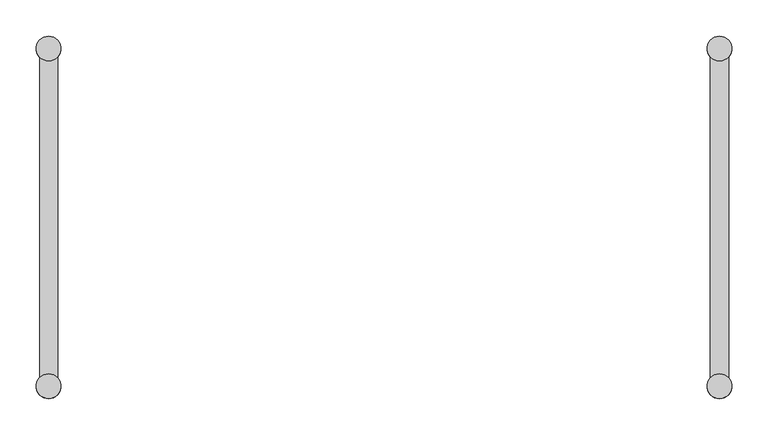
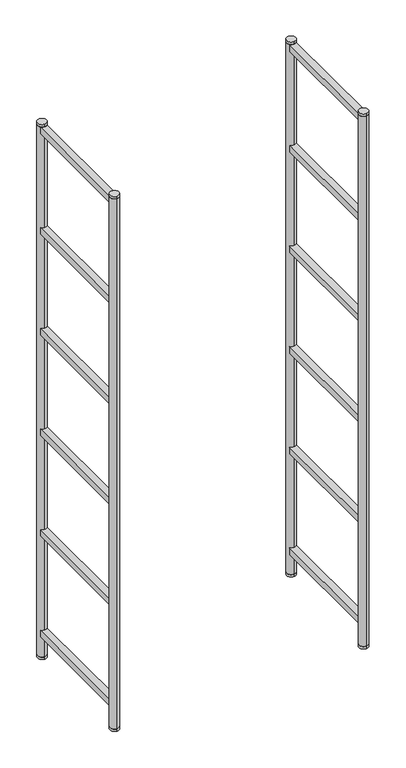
"""IFC4 building model written with IfcOpenShell, lengths in millimetres: furniture geometry, MAKR_TEMPLATE_900mmL : MAKR_TEMPLATE_900mmL."""

from ifc_helpers import new_model, si_unit, point, frame, frame_2d, origin, origin_with_axes, place, context, project, spatial, polyline, circle_curve, trimmed, segment, composite_curve, outline, extrude, source, transform, mapped, element, save


def furniture_b4e3dd61(model_context):
    return source(origin(), model_context, "Body", "SweptSolid", [
        extrude(outline(composite_curve([segment(polyline([(475.0, 221.4782814), (475.0, -221.4782814)]), True, "CONTINUOUS"), segment(trimmed(circle_curve(frame_2d((462.5, -233.0)), 17.0), [point((475.0, -221.4782814))], [point((450.0, -221.4782814))], True, "CARTESIAN"), True, "CONTINUOUS"), segment(polyline([(450.0, -221.4782814), (450.0, 221.4782814)]), True, "CONTINUOUS"), segment(trimmed(circle_curve(frame_2d((462.5, 233.0)), 17.0), [point((450.0, 221.4782814))], [point((475.0, 221.4782814))], True, "CARTESIAN"), True, "CONTINUOUS")], self_intersect=False)), frame((0.0, 0.0, 2064.0), z_axis=(0.0, 0.0, 1.0), x_axis=(1.0, 0.0, 0.0)), (0.0, 0.0, 1.0), 25.0),
        extrude(outline(composite_curve([segment(polyline([(475.0, 221.4782814), (475.0, -221.4782814)]), True, "CONTINUOUS"), segment(trimmed(circle_curve(frame_2d((462.5, -233.0)), 17.0), [point((475.0, -221.4782814))], [point((450.0, -221.4782814))], True, "CARTESIAN"), True, "CONTINUOUS"), segment(polyline([(450.0, -221.4782814), (450.0, 221.4782814)]), True, "CONTINUOUS"), segment(trimmed(circle_curve(frame_2d((462.5, 233.0)), 17.0), [point((450.0, 221.4782814))], [point((475.0, 221.4782814))], True, "CARTESIAN"), True, "CONTINUOUS")], self_intersect=False)), frame((0.0, 0.0, 1669.0), z_axis=(0.0, 0.0, 1.0), x_axis=(1.0, 0.0, 0.0)), (0.0, 0.0, 1.0), 25.0),
        extrude(outline(composite_curve([segment(polyline([(475.0, 221.4782814), (475.0, -221.4782814)]), True, "CONTINUOUS"), segment(trimmed(circle_curve(frame_2d((462.5, -233.0)), 17.0), [point((475.0, -221.4782814))], [point((450.0, -221.4782814))], True, "CARTESIAN"), True, "CONTINUOUS"), segment(polyline([(450.0, -221.4782814), (450.0, 221.4782814)]), True, "CONTINUOUS"), segment(trimmed(circle_curve(frame_2d((462.5, 233.0)), 17.0), [point((450.0, 221.4782814))], [point((475.0, 221.4782814))], True, "CARTESIAN"), True, "CONTINUOUS")], self_intersect=False)), frame((0.0, 0.0, 1274.0), z_axis=(0.0, 0.0, 1.0), x_axis=(1.0, 0.0, 0.0)), (0.0, 0.0, 1.0), 25.0),
        extrude(outline(composite_curve([segment(polyline([(475.0, 221.4782814), (475.0, -221.4782814)]), True, "CONTINUOUS"), segment(trimmed(circle_curve(frame_2d((462.5, -233.0)), 17.0), [point((475.0, -221.4782814))], [point((450.0, -221.4782814))], True, "CARTESIAN"), True, "CONTINUOUS"), segment(polyline([(450.0, -221.4782814), (450.0, 221.4782814)]), True, "CONTINUOUS"), segment(trimmed(circle_curve(frame_2d((462.5, 233.0)), 17.0), [point((450.0, 221.4782814))], [point((475.0, 221.4782814))], True, "CARTESIAN"), True, "CONTINUOUS")], self_intersect=False)), frame((0.0, 0.0, 879.0), z_axis=(0.0, 0.0, 1.0), x_axis=(1.0, 0.0, 0.0)), (0.0, 0.0, 1.0), 25.0),
        extrude(outline(composite_curve([segment(polyline([(475.0, 221.4782814), (475.0, -221.4782814)]), True, "CONTINUOUS"), segment(trimmed(circle_curve(frame_2d((462.5, -233.0)), 17.0), [point((475.0, -221.4782814))], [point((450.0, -221.4782814))], True, "CARTESIAN"), True, "CONTINUOUS"), segment(polyline([(450.0, -221.4782814), (450.0, 221.4782814)]), True, "CONTINUOUS"), segment(trimmed(circle_curve(frame_2d((462.5, 233.0)), 17.0), [point((450.0, 221.4782814))], [point((475.0, 221.4782814))], True, "CARTESIAN"), True, "CONTINUOUS")], self_intersect=False)), frame((0.0, 0.0, 484.0), z_axis=(0.0, 0.0, 1.0), x_axis=(1.0, 0.0, 0.0)), (0.0, 0.0, 1.0), 25.0),
        extrude(outline(composite_curve([segment(polyline([(475.0, 221.4782814), (475.0, -221.4782814)]), True, "CONTINUOUS"), segment(trimmed(circle_curve(frame_2d((462.5, -233.0)), 17.0), [point((475.0, -221.4782814))], [point((450.0, -221.4782814))], True, "CARTESIAN"), True, "CONTINUOUS"), segment(polyline([(450.0, -221.4782814), (450.0, 221.4782814)]), True, "CONTINUOUS"), segment(trimmed(circle_curve(frame_2d((462.5, 233.0)), 17.0), [point((450.0, 221.4782814))], [point((475.0, 221.4782814))], True, "CARTESIAN"), True, "CONTINUOUS")], self_intersect=False)), frame((0.0, 0.0, 89.0), z_axis=(0.0, 0.0, 1.0), x_axis=(1.0, 0.0, 0.0)), (0.0, 0.0, 1.0), 25.0),
        extrude(outline(composite_curve([segment(trimmed(circle_curve(frame_2d((462.5, -233.0)), 17.0), [point((462.5, -216.0))], [point((462.5, -250.0))], False, "CARTESIAN"), True, "CONTINUOUS"), segment(trimmed(circle_curve(frame_2d((462.5, -233.0)), 17.0), [point((462.5, -250.0))], [point((462.5, -216.0))], False, "CARTESIAN"), True, "CONTINUOUS")], self_intersect=False)), frame((0.0, 0.0, 2091.0), z_axis=(0.0, 0.0, 1.0), x_axis=(1.0, 0.0, 0.0)), (0.0, 0.0, 1.0), 9.0),
        extrude(outline(composite_curve([segment(trimmed(circle_curve(frame_2d((462.5, -233.0)), 17.0), [point((462.5, -216.0))], [point((462.5, -250.0))], False, "CARTESIAN"), True, "CONTINUOUS"), segment(trimmed(circle_curve(frame_2d((462.5, -233.0)), 17.0), [point((462.5, -250.0))], [point((462.5, -216.0))], False, "CARTESIAN"), True, "CONTINUOUS")], self_intersect=False)), origin_with_axes(), (0.0, 0.0, 1.0), 9.0),
        extrude(outline(composite_curve([segment(trimmed(circle_curve(frame_2d((462.5, -233.0)), 17.0), [point((462.5, -216.0))], [point((462.5, -250.0))], False, "CARTESIAN"), True, "CONTINUOUS"), segment(trimmed(circle_curve(frame_2d((462.5, -233.0)), 17.0), [point((462.5, -250.0))], [point((462.5, -216.0))], False, "CARTESIAN"), True, "CONTINUOUS")], self_intersect=False)), frame((0.0, 0.0, 9.0), z_axis=(0.0, 0.0, 1.0), x_axis=(1.0, 0.0, 0.0)), (0.0, 0.0, 1.0), 2082.0),
        extrude(outline(composite_curve([segment(trimmed(circle_curve(frame_2d((462.5, 233.0)), 17.0), [point((462.5, 216.0))], [point((462.5, 250.0))], False, "CARTESIAN"), True, "CONTINUOUS"), segment(trimmed(circle_curve(frame_2d((462.5, 233.0)), 17.0), [point((462.5, 250.0))], [point((462.5, 216.0))], False, "CARTESIAN"), True, "CONTINUOUS")], self_intersect=False)), frame((0.0, 0.0, 2091.0), z_axis=(0.0, 0.0, 1.0), x_axis=(1.0, 0.0, 0.0)), (0.0, 0.0, 1.0), 9.0),
        extrude(outline(composite_curve([segment(trimmed(circle_curve(frame_2d((462.5, 233.0)), 17.0), [point((462.5, 216.0))], [point((462.5, 250.0))], False, "CARTESIAN"), True, "CONTINUOUS"), segment(trimmed(circle_curve(frame_2d((462.5, 233.0)), 17.0), [point((462.5, 250.0))], [point((462.5, 216.0))], False, "CARTESIAN"), True, "CONTINUOUS")], self_intersect=False)), origin_with_axes(), (0.0, 0.0, 1.0), 9.0),
        extrude(outline(composite_curve([segment(trimmed(circle_curve(frame_2d((462.5, 233.0)), 17.0), [point((462.5, 216.0))], [point((462.5, 250.0))], False, "CARTESIAN"), True, "CONTINUOUS"), segment(trimmed(circle_curve(frame_2d((462.5, 233.0)), 17.0), [point((462.5, 250.0))], [point((462.5, 216.0))], False, "CARTESIAN"), True, "CONTINUOUS")], self_intersect=False)), frame((0.0, 0.0, 9.0), z_axis=(0.0, 0.0, 1.0), x_axis=(1.0, 0.0, 0.0)), (0.0, 0.0, 1.0), 2082.0),
        extrude(outline(composite_curve([segment(trimmed(circle_curve(frame_2d((-462.5, 233.0)), 17.0), [point((-475.0, 221.4782814))], [point((-450.0, 221.4782814))], True, "CARTESIAN"), True, "CONTINUOUS"), segment(polyline([(-450.0, 221.4782814), (-450.0, -221.4782814)]), True, "CONTINUOUS"), segment(trimmed(circle_curve(frame_2d((-462.5, -233.0)), 17.0), [point((-450.0, -221.4782814))], [point((-475.0, -221.4782814))], True, "CARTESIAN"), True, "CONTINUOUS"), segment(polyline([(-475.0, -221.4782814), (-475.0, 221.4782814)]), True, "CONTINUOUS")], self_intersect=False)), frame((0.0, 0.0, 2064.0), z_axis=(0.0, 0.0, 1.0), x_axis=(1.0, 0.0, 0.0)), (0.0, 0.0, 1.0), 25.0),
        extrude(outline(composite_curve([segment(trimmed(circle_curve(frame_2d((-462.5, 233.0)), 17.0), [point((-475.0, 221.4782814))], [point((-450.0, 221.4782814))], True, "CARTESIAN"), True, "CONTINUOUS"), segment(polyline([(-450.0, 221.4782814), (-450.0, -221.4782814)]), True, "CONTINUOUS"), segment(trimmed(circle_curve(frame_2d((-462.5, -233.0)), 17.0), [point((-450.0, -221.4782814))], [point((-475.0, -221.4782814))], True, "CARTESIAN"), True, "CONTINUOUS"), segment(polyline([(-475.0, -221.4782814), (-475.0, 221.4782814)]), True, "CONTINUOUS")], self_intersect=False)), frame((0.0, 0.0, 1669.0), z_axis=(0.0, 0.0, 1.0), x_axis=(1.0, 0.0, 0.0)), (0.0, 0.0, 1.0), 25.0),
        extrude(outline(composite_curve([segment(trimmed(circle_curve(frame_2d((-462.5, 233.0)), 17.0), [point((-475.0, 221.4782814))], [point((-450.0, 221.4782814))], True, "CARTESIAN"), True, "CONTINUOUS"), segment(polyline([(-450.0, 221.4782814), (-450.0, -221.4782814)]), True, "CONTINUOUS"), segment(trimmed(circle_curve(frame_2d((-462.5, -233.0)), 17.0), [point((-450.0, -221.4782814))], [point((-475.0, -221.4782814))], True, "CARTESIAN"), True, "CONTINUOUS"), segment(polyline([(-475.0, -221.4782814), (-475.0, 221.4782814)]), True, "CONTINUOUS")], self_intersect=False)), frame((0.0, 0.0, 1274.0), z_axis=(0.0, 0.0, 1.0), x_axis=(1.0, 0.0, 0.0)), (0.0, 0.0, 1.0), 25.0),
        extrude(outline(composite_curve([segment(trimmed(circle_curve(frame_2d((-462.5, 233.0)), 17.0), [point((-475.0, 221.4782814))], [point((-450.0, 221.4782814))], True, "CARTESIAN"), True, "CONTINUOUS"), segment(polyline([(-450.0, 221.4782814), (-450.0, -221.4782814)]), True, "CONTINUOUS"), segment(trimmed(circle_curve(frame_2d((-462.5, -233.0)), 17.0), [point((-450.0, -221.4782814))], [point((-475.0, -221.4782814))], True, "CARTESIAN"), True, "CONTINUOUS"), segment(polyline([(-475.0, -221.4782814), (-475.0, 221.4782814)]), True, "CONTINUOUS")], self_intersect=False)), frame((0.0, 0.0, 879.0), z_axis=(0.0, 0.0, 1.0), x_axis=(1.0, 0.0, 0.0)), (0.0, 0.0, 1.0), 25.0),
        extrude(outline(composite_curve([segment(trimmed(circle_curve(frame_2d((-462.5, 233.0)), 17.0), [point((-475.0, 221.4782814))], [point((-450.0, 221.4782814))], True, "CARTESIAN"), True, "CONTINUOUS"), segment(polyline([(-450.0, 221.4782814), (-450.0, -221.4782814)]), True, "CONTINUOUS"), segment(trimmed(circle_curve(frame_2d((-462.5, -233.0)), 17.0), [point((-450.0, -221.4782814))], [point((-475.0, -221.4782814))], True, "CARTESIAN"), True, "CONTINUOUS"), segment(polyline([(-475.0, -221.4782814), (-475.0, 221.4782814)]), True, "CONTINUOUS")], self_intersect=False)), frame((0.0, 0.0, 484.0), z_axis=(0.0, 0.0, 1.0), x_axis=(1.0, 0.0, 0.0)), (0.0, 0.0, 1.0), 25.0),
        extrude(outline(composite_curve([segment(trimmed(circle_curve(frame_2d((-462.5, 233.0)), 17.0), [point((-475.0, 221.4782814))], [point((-450.0, 221.4782814))], True, "CARTESIAN"), True, "CONTINUOUS"), segment(polyline([(-450.0, 221.4782814), (-450.0, -221.4782814)]), True, "CONTINUOUS"), segment(trimmed(circle_curve(frame_2d((-462.5, -233.0)), 17.0), [point((-450.0, -221.4782814))], [point((-475.0, -221.4782814))], True, "CARTESIAN"), True, "CONTINUOUS"), segment(polyline([(-475.0, -221.4782814), (-475.0, 221.4782814)]), True, "CONTINUOUS")], self_intersect=False)), frame((0.0, 0.0, 89.0), z_axis=(0.0, 0.0, 1.0), x_axis=(1.0, 0.0, 0.0)), (0.0, 0.0, 1.0), 25.0),
        extrude(outline(composite_curve([segment(trimmed(circle_curve(frame_2d((-462.5, -233.0)), 17.0), [point((-462.5, -216.0))], [point((-462.5, -250.0))], False, "CARTESIAN"), True, "CONTINUOUS"), segment(trimmed(circle_curve(frame_2d((-462.5, -233.0)), 17.0), [point((-462.5, -250.0))], [point((-462.5, -216.0))], False, "CARTESIAN"), True, "CONTINUOUS")], self_intersect=False)), frame((0.0, 0.0, 2091.0), z_axis=(0.0, 0.0, 1.0), x_axis=(1.0, 0.0, 0.0)), (0.0, 0.0, 1.0), 9.0),
        extrude(outline(composite_curve([segment(trimmed(circle_curve(frame_2d((-462.5, -233.0)), 17.0), [point((-462.5, -216.0))], [point((-462.5, -250.0))], False, "CARTESIAN"), True, "CONTINUOUS"), segment(trimmed(circle_curve(frame_2d((-462.5, -233.0)), 17.0), [point((-462.5, -250.0))], [point((-462.5, -216.0))], False, "CARTESIAN"), True, "CONTINUOUS")], self_intersect=False)), origin_with_axes(), (0.0, 0.0, 1.0), 9.0),
        extrude(outline(composite_curve([segment(trimmed(circle_curve(frame_2d((-462.5, -233.0)), 17.0), [point((-462.5, -216.0))], [point((-462.5, -250.0))], False, "CARTESIAN"), True, "CONTINUOUS"), segment(trimmed(circle_curve(frame_2d((-462.5, -233.0)), 17.0), [point((-462.5, -250.0))], [point((-462.5, -216.0))], False, "CARTESIAN"), True, "CONTINUOUS")], self_intersect=False)), frame((0.0, 0.0, 9.0), z_axis=(0.0, 0.0, 1.0), x_axis=(1.0, 0.0, 0.0)), (0.0, 0.0, 1.0), 2082.0),
        extrude(outline(composite_curve([segment(trimmed(circle_curve(frame_2d((-462.5, 233.0)), 17.0), [point((-462.5, 216.0))], [point((-462.5, 250.0))], False, "CARTESIAN"), True, "CONTINUOUS"), segment(trimmed(circle_curve(frame_2d((-462.5, 233.0)), 17.0), [point((-462.5, 250.0))], [point((-462.5, 216.0))], False, "CARTESIAN"), True, "CONTINUOUS")], self_intersect=False)), frame((0.0, 0.0, 2091.0), z_axis=(0.0, 0.0, 1.0), x_axis=(1.0, 0.0, 0.0)), (0.0, 0.0, 1.0), 9.0),
        extrude(outline(composite_curve([segment(trimmed(circle_curve(frame_2d((-462.5, 233.0)), 17.0), [point((-462.5, 216.0))], [point((-462.5, 250.0))], False, "CARTESIAN"), True, "CONTINUOUS"), segment(trimmed(circle_curve(frame_2d((-462.5, 233.0)), 17.0), [point((-462.5, 250.0))], [point((-462.5, 216.0))], False, "CARTESIAN"), True, "CONTINUOUS")], self_intersect=False)), origin_with_axes(), (0.0, 0.0, 1.0), 9.0),
        extrude(outline(composite_curve([segment(trimmed(circle_curve(frame_2d((-462.5, 233.0)), 17.0), [point((-462.5, 216.0))], [point((-462.5, 250.0))], False, "CARTESIAN"), True, "CONTINUOUS"), segment(trimmed(circle_curve(frame_2d((-462.5, 233.0)), 17.0), [point((-462.5, 250.0))], [point((-462.5, 216.0))], False, "CARTESIAN"), True, "CONTINUOUS")], self_intersect=False)), frame((0.0, 0.0, 9.0), z_axis=(0.0, 0.0, 1.0), x_axis=(1.0, 0.0, 0.0)), (0.0, 0.0, 1.0), 2082.0),
    ])


if __name__ == "__main__":
    model = new_model("IFC4")
    model_context = context("Model", 3, world=origin())
    ifc_project = project(units=[si_unit("LENGTHUNIT", "METRE", prefix="MILLI")], contexts=[model_context])
    site = spatial("IfcSite", under=ifc_project)
    building = spatial("IfcBuilding", under=site)
    placement = place(None, origin())
    furniture_shape = furniture_b4e3dd61(model_context)
    element("IfcFurniture", 1, ObjectType="MAKR_TEMPLATE_900mmL : MAKR_TEMPLATE_900mmL", at=placement, inside=building, context=model_context, shape_type="MappedRepresentation", body=[
        mapped(furniture_shape, transform((0.0, 0.0, 0.0), x_axis=(1.0, 0.0, 0.0), y_axis=(0.0, 1.0, 0.0), z_axis=(0.0, 0.0, 1.0))),
    ])
    save(model, "model.ifc")
